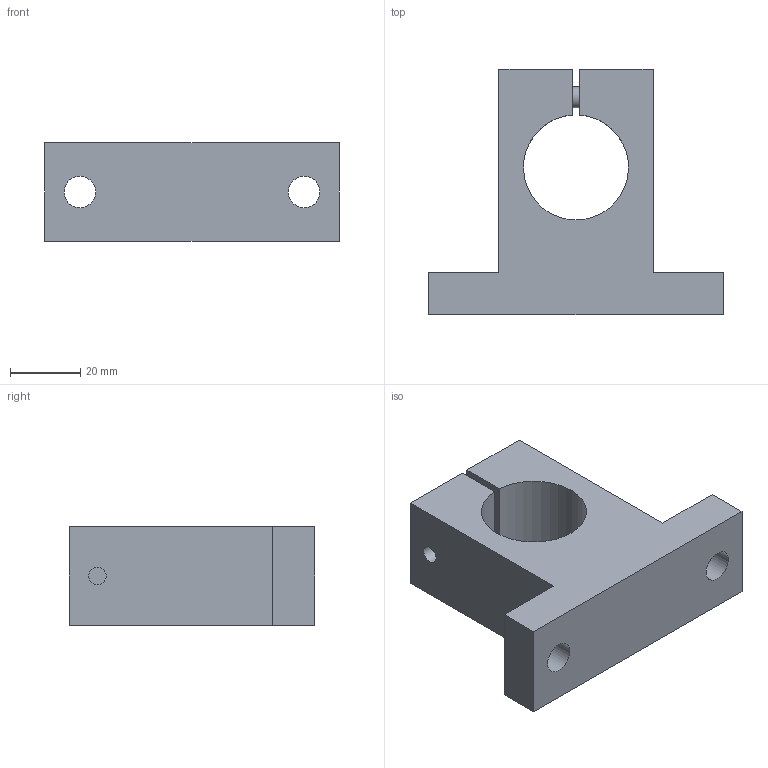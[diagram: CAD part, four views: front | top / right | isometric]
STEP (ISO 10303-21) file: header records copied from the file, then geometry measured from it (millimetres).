
FILE_DESCRIPTION(('STEP AP203'),'1');
FILE_NAME('//192.168.1.1/share/s-4 技術開発/s-4-14_個人別フォルダ/橋詰/09_CAD_DATA/3D/HP用/3Ｄモデル/SN-A/SN-30A.step','2021-09-16T02:45:49',(' '),(' '),'Spatial InterOp 3D',' ',' ');
FILE_SCHEMA(('CONFIG_CONTROL_DESIGN'));
Length unit declared in the file: millimetre
Products named in the file (2): 1; 2
Bounding box: 84 x 70 x 28 mm (x, y, z)
Volume: 77358.7 mm3; surface area: 19663.7 mm2
Topology: 2 solids, 2 shells, 34 faces, 84 edges, 57 vertices
Faces by surface type: plane 24, cylinder 9, cone 1
Full cylindrical faces by diameter (mm): 5 x1, 6 x2, 6.6 x1, 9 x2, 10 x1, 11 x1
Entity records: 1054 total; most frequent: CARTESIAN_POINT 191, DIRECTION 158, ORIENTED_EDGE 140, EDGE_CURVE 70, EDGE_LOOP 54, AXIS2_PLACEMENT_3D 53, VERTEX_POINT 52, LINE 52
